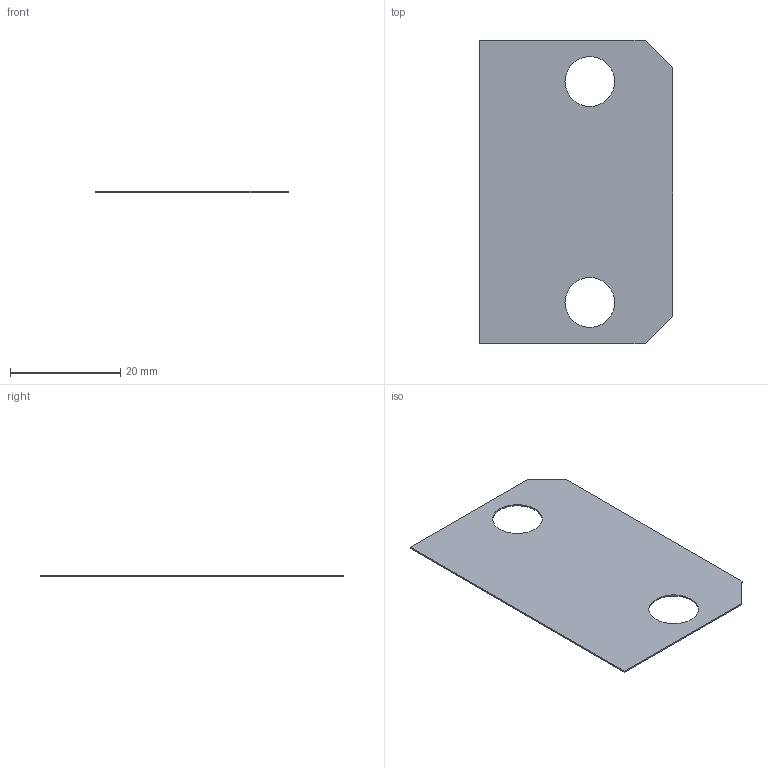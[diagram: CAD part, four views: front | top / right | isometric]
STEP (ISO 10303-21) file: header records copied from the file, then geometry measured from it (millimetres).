
FILE_DESCRIPTION(/* description */ ('FEUILLE MYLAR SUPPORT FILTRE','CAx-IF Rec.Pracs.---Representation and Presentation of Product Manufacturing Information (PMI)---4.0---2014-10-13'),/* implementation_level */ '2;1');
FILE_NAME(/* name */ 'vv180804-A.stp',/* time_stamp */ '2025-09-30T11:26:40+02:00',/* author */ ('RIVIERE C.'),/* organization */ (''),/* preprocessor_version */ 'ST-DEVELOPER v20',/* originating_system */ 'Autodesk Inventor 2025',/* authorisation */ '');
FILE_SCHEMA (('AP242_MANAGED_MODEL_BASED_3D_ENGINEERING_MIM_LF { 1 0 10303 442 1 1 4 }'));
Length unit declared in the file: millimetre
Products named in the file (1): VICTOR.V.18.08.04
Bounding box: 35 x 55 x 0.25 mm (x, y, z)
Volume: 443.2 mm3; surface area: 3603.2 mm2
Topology: 1 solids, 1 shells, 10 faces, 24 edges, 16 vertices
Faces by surface type: plane 8, cylinder 2
Full cylindrical faces by diameter (mm): 9 x2
Entity records: 437 total; most frequent: CARTESIAN_POINT 70, DIRECTION 62, ORIENTED_EDGE 48, EDGE_CURVE 24, AXIS2_PLACEMENT_3D 21, LINE 20, VECTOR 20, VERTEX_POINT 16
